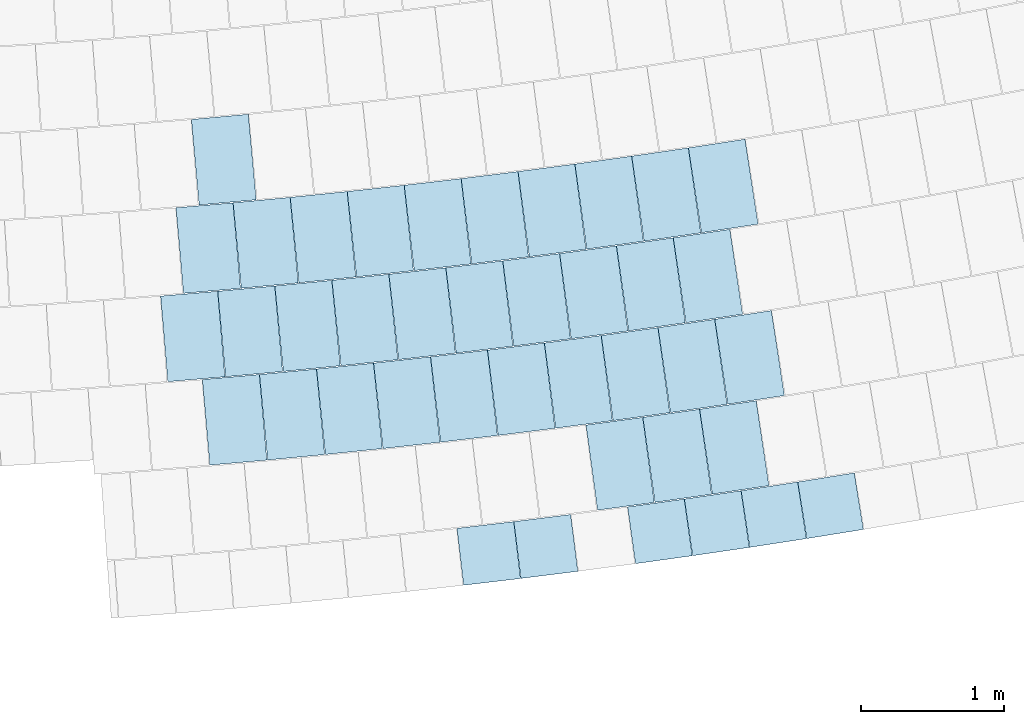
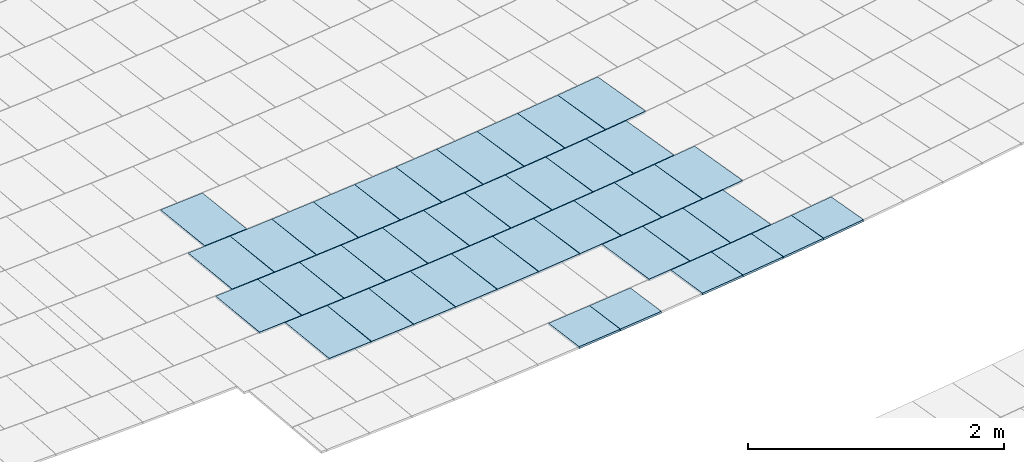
# One storey, part 57 of 438: 40 slabs.
"""IFC2X3 building model written with IfcOpenShell, lengths in millimetres."""

from ifc_helpers import new_model, entity, si_unit, converted_unit, derived_unit, direction, frame, frame_2d, origin, place, context, subcontext, project, spatial, polyline, rectangle, outline, extrude, material, layer, layer_set, layer_usage, type_object, element, save


model = new_model("IFC2X3")

# Units and contexts
model_context = context("Model", 3, precision=0.01, world=origin(), true_north=direction((6.123031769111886e-17, 1.0)))
body_context = subcontext(model_context, "Body", "Model", "MODEL_VIEW")
ifc_project = project(units=[si_unit("LENGTHUNIT", "METRE", prefix="MILLI"), si_unit("AREAUNIT", "SQUARE_METRE"), si_unit("VOLUMEUNIT", "CUBIC_METRE"), converted_unit("PLANEANGLEUNIT", "DEGREE", entity("IfcRatioMeasure", 0.017453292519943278), si_unit("PLANEANGLEUNIT", "RADIAN"), dimensions=[0, 0, 0, 0, 0, 0, 0]), si_unit("MASSUNIT", "GRAM", prefix="KILO"), derived_unit("MASSDENSITYUNIT", [(si_unit("MASSUNIT", "GRAM", prefix="KILO"), 1), (si_unit("LENGTHUNIT", "METRE"), -3)]), derived_unit("MOMENTOFINERTIAUNIT", [(si_unit("LENGTHUNIT", "METRE"), 4)]), si_unit("TIMEUNIT", "SECOND"), si_unit("FREQUENCYUNIT", "HERTZ"), si_unit("THERMODYNAMICTEMPERATUREUNIT", "DEGREE_CELSIUS"), derived_unit("THERMALTRANSMITTANCEUNIT", [(si_unit("MASSUNIT", "GRAM", prefix="KILO"), 1), (si_unit("THERMODYNAMICTEMPERATUREUNIT", "KELVIN"), -1), (si_unit("TIMEUNIT", "SECOND"), -3)]), derived_unit("THERMALCONDUCTANCEUNIT", [(si_unit("MASSUNIT", "GRAM", prefix="KILO"), 1), (si_unit("LENGTHUNIT", "METRE"), 1), (si_unit("THERMODYNAMICTEMPERATUREUNIT", "KELVIN"), -1), (si_unit("TIMEUNIT", "SECOND"), -3)]), derived_unit("VOLUMETRICFLOWRATEUNIT", [(si_unit("LENGTHUNIT", "METRE"), 3), (si_unit("TIMEUNIT", "SECOND"), -1)]), derived_unit("MASSFLOWRATEUNIT", [(si_unit("MASSUNIT", "GRAM", prefix="KILO"), 1), (si_unit("TIMEUNIT", "SECOND"), -1)]), derived_unit("ROTATIONALFREQUENCYUNIT", [(si_unit("TIMEUNIT", "SECOND"), -1)]), si_unit("ELECTRICCURRENTUNIT", "AMPERE"), si_unit("ELECTRICVOLTAGEUNIT", "VOLT"), si_unit("POWERUNIT", "WATT"), converted_unit("FORCEUNIT", "KIP", entity("IfcRatioMeasure", 2.088543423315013e-05), si_unit("FORCEUNIT", "NEWTON"), dimensions=[1, 1, -2, 0, 0, 0, 0]), si_unit("ILLUMINANCEUNIT", "LUX"), si_unit("LUMINOUSFLUXUNIT", "LUMEN"), si_unit("LUMINOUSINTENSITYUNIT", "CANDELA"), derived_unit("USERDEFINED", [(si_unit("MASSUNIT", "GRAM", prefix="KILO"), -1), (si_unit("LENGTHUNIT", "METRE"), -2), (si_unit("TIMEUNIT", "SECOND"), 3), (si_unit("LUMINOUSFLUXUNIT", "LUMEN"), 1)]), derived_unit("USERDEFINED", [(si_unit("MASSUNIT", "GRAM", prefix="KILO"), 1), (si_unit("LENGTHUNIT", "METRE"), 3), (si_unit("TIMEUNIT", "SECOND"), -3), (si_unit("ELECTRICCURRENTUNIT", "AMPERE"), -2)]), derived_unit("USERDEFINED", [(si_unit("LENGTHUNIT", "METRE"), 2), (si_unit("TIMEUNIT", "SECOND"), -2)]), derived_unit("SOUNDPOWERUNIT", [(si_unit("MASSUNIT", "GRAM", prefix="KILO"), 1), (si_unit("LENGTHUNIT", "METRE"), 2), (si_unit("TIMEUNIT", "SECOND"), -3)]), derived_unit("SOUNDPRESSUREUNIT", [(si_unit("MASSUNIT", "GRAM", prefix="KILO"), 1), (si_unit("LENGTHUNIT", "METRE"), -1), (si_unit("TIMEUNIT", "SECOND"), -2)]), derived_unit("LINEARVELOCITYUNIT", [(si_unit("LENGTHUNIT", "METRE"), 1), (si_unit("TIMEUNIT", "SECOND"), -1)]), si_unit("PRESSUREUNIT", "PASCAL"), derived_unit("USERDEFINED", [(si_unit("LENGTHUNIT", "METRE"), -2), (si_unit("MASSUNIT", "GRAM", prefix="KILO"), 1), (si_unit("TIMEUNIT", "SECOND"), -2)]), derived_unit("LINEARFORCEUNIT", [(si_unit("MASSUNIT", "GRAM", prefix="KILO"), 1), (si_unit("LENGTHUNIT", "METRE"), 1), (si_unit("TIMEUNIT", "SECOND"), -2), (si_unit("LENGTHUNIT", "METRE"), -1)]), derived_unit("PLANARFORCEUNIT", [(si_unit("MASSUNIT", "GRAM", prefix="KILO"), 1), (si_unit("LENGTHUNIT", "METRE"), 1), (si_unit("TIMEUNIT", "SECOND"), -2), (si_unit("LENGTHUNIT", "METRE"), -2)]), derived_unit("SPECIFICHEATCAPACITYUNIT", [(si_unit("LENGTHUNIT", "METRE"), 2), (si_unit("TIMEUNIT", "SECOND"), -2), (si_unit("THERMODYNAMICTEMPERATUREUNIT", "KELVIN"), -1)]), derived_unit("VAPORPERMEABILITYUNIT", [(si_unit("TIMEUNIT", "SECOND"), 1), (si_unit("LENGTHUNIT", "METRE"), -1)]), derived_unit("DYNAMICVISCOSITYUNIT", [(si_unit("MASSUNIT", "GRAM", prefix="KILO"), 1), (si_unit("LENGTHUNIT", "METRE"), -1), (si_unit("TIMEUNIT", "SECOND"), -1)]), derived_unit("THERMALEXPANSIONCOEFFICIENTUNIT", [(si_unit("THERMODYNAMICTEMPERATUREUNIT", "KELVIN"), -1)])], contexts=[model_context])

# Site, building, storey
site_placement = place(None, frame((0.0, 0.0, 0.0), z_axis=(0.0, 0.0, 1.0), x_axis=(0.8191520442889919, 0.5735764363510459, 0.0)))
site = spatial("IfcSite", under=ifc_project, at=site_placement, Name="Default", CompositionType="ELEMENT")
building_placement = place(site_placement, origin())
building = spatial("IfcBuilding", under=site, at=building_placement, CompositionType="ELEMENT")
storey_placement = place(building_placement, origin())
storey = spatial("IfcBuildingStorey", under=building, at=storey_placement, Name="PLAN", CompositionType="ELEMENT", Elevation=0.0)

# Slabs
ifc_material = material(Name="Paint-01")
ifc_layer = layer(ifc_material, 20.00000000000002)
ifc_layer_set = layer_set([ifc_layer], Name="Floor:Slab-179:1000")
ifc_layer_usage = layer_usage(ifc_layer_set, "AXIS3", "POSITIVE", 0.0)
slab_type = type_object("IfcSlabType", Name="Floor:Slab-179:1000", PredefinedType="FLOOR", material=ifc_layer_set)
slab_1_placement = place(storey_placement, origin())
element("IfcSlab", 1, at=slab_1_placement, inside=storey, type_object=slab_type, material=ifc_layer_usage, Name="Floor:Slab-179:1000", ObjectType="Floor:Slab-179:1000", PredefinedType="FLOOR", context=body_context, shape_type="SweptSolid", body=[
    extrude(outline(polyline([(-300.0, -200.0000029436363), (299.99999762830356, -200.00000294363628), (300.0, 200.0000029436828), (-299.9999976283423, 200.00000294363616), (-300.0, -200.0000029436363)])), frame((-65452.10207998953, -118417.26947926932, 520.0), z_axis=(0.0, 0.0, -1.0), x_axis=(-0.4457252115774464, -0.8951698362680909, 0.0)), (0.0, 0.0, 1.0), 20.000000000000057),
])
slab_2_placement = place(storey_placement, origin())
element("IfcSlab", 2, at=slab_2_placement, inside=storey, type_object=slab_type, material=ifc_layer_usage, Name="Floor:Slab-179:1000", ObjectType="Floor:Slab-179:1000", PredefinedType="FLOOR", context=body_context, shape_type="SweptSolid", body=[
    extrude(outline(polyline([(-300.0, -200.00000294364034), (299.9999976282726, -200.00000294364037), (300.0, 200.0000029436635), (-299.99999762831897, 200.00000294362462), (-300.0, -200.00000294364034)])), frame((-65004.22109970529, -117964.03387049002, 520.0), z_axis=(0.0, 0.0, -1.0), x_axis=(-0.4425299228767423, -0.896753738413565, 0.0)), (0.0, 0.0, 1.0), 19.99999999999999),
])
slab_3_placement = place(storey_placement, origin())
element("IfcSlab", 3, at=slab_3_placement, inside=storey, type_object=slab_type, material=ifc_layer_usage, Name="Floor:Slab-179:1000", ObjectType="Floor:Slab-179:1000", PredefinedType="FLOOR", context=body_context, shape_type="SweptSolid", body=[
    extrude(outline(polyline([(-300.0, -200.00000294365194), (299.99999762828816, -200.00000294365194), (300.0, 200.00000294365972), (-299.9999976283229, 200.00000294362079), (-300.0, -200.00000294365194)])), frame((-65539.6823063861, -119049.10589397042, 520.0), z_axis=(0.0, 0.0, -1.0), x_axis=(-0.44252992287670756, -0.8967537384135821, 0.0)), (0.0, 0.0, 1.0), 20.000000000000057),
])
slab_4_placement = place(storey_placement, origin())
element("IfcSlab", 4, at=slab_4_placement, inside=storey, type_object=slab_type, material=ifc_layer_usage, Name="Floor:Slab-179:1000", ObjectType="Floor:Slab-179:1000", PredefinedType="FLOOR", context=body_context, shape_type="SweptSolid", body=[
    extrude(outline(polyline([(-200.0, -200.00000294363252), (199.99999762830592, -200.00000294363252), (200.0, 200.00000294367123), (-199.9999976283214, 200.0000029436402), (-200.0, -200.00000294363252)])), frame((-66030.8905207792, -120044.50254360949, 520.0), z_axis=(0.0, 0.0, -1.0), x_axis=(-0.4425299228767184, -0.8967537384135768, 0.0)), (0.0, 0.0, 1.0), 20.000000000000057),
])
slab_5_placement = place(storey_placement, origin())
element("IfcSlab", 5, at=slab_5_placement, inside=storey, type_object=slab_type, material=ifc_layer_usage, Name="Floor:Slab-179:1000", ObjectType="Floor:Slab-179:1000", PredefinedType="FLOOR", context=body_context, shape_type="SweptSolid", body=[
    extrude(outline(polyline([(-300.0, -200.00000294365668), (299.9999976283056, -200.00000294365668), (300.0, 200.00000294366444), (-299.99999762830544, 200.00000294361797), (-300.0, -200.00000294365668)])), frame((-65987.54643928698, -119502.35830481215, 520.0), z_axis=(0.0, 0.0, -1.0), x_axis=(-0.44565778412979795, -0.895203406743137, 0.0)), (0.0, 0.0, 1.0), 20.000000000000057),
])
slab_6_placement = place(storey_placement, origin())
element("IfcSlab", 6, at=slab_6_placement, inside=storey, type_object=slab_type, material=ifc_layer_usage, Name="Floor:Slab-179:1000", ObjectType="Floor:Slab-179:1000", PredefinedType="FLOOR", context=body_context, shape_type="SweptSolid", body=[
    extrude(outline(polyline([(-300.0, -200.00000294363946), (299.9999976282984, -200.0000029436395), (300.0, 200.00000294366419), (-299.9999976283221, 200.00000294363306), (-300.0, -200.00000294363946)])), frame((-67753.29285824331, -115814.69515258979, 520.0), z_axis=(0.0, 0.0, -1.0), x_axis=(-0.4972118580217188, -0.8676291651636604, 0.0)), (0.0, 0.0, 1.0), 20.000000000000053),
])
slab_7_placement = place(storey_placement, origin())
element("IfcSlab", 7, at=slab_7_placement, inside=storey, type_object=slab_type, material=ifc_layer_usage, Name="Floor:Slab-179:1000", ObjectType="Floor:Slab-179:1000", PredefinedType="FLOOR", context=body_context, shape_type="SweptSolid", body=[
    extrude(outline(polyline([(-300.0, -200.0000029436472), (299.9999976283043, -200.00000294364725), (300.0, 200.00000294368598), (-299.9999976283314, 200.00000294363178), (-300.0, -200.0000029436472)])), frame((-65364.21610249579, -117784.76678214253, 520.0), z_axis=(0.0, 0.0, -1.0), x_axis=(-0.44898433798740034, -0.8935396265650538, 0.0)), (0.0, 0.0, 1.0), 19.99999999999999),
])
slab_8_placement = place(storey_placement, origin())
element("IfcSlab", 8, at=slab_8_placement, inside=storey, type_object=slab_type, material=ifc_layer_usage, Name="Floor:Slab-179:1000", ObjectType="Floor:Slab-179:1000", PredefinedType="FLOOR", context=body_context, shape_type="SweptSolid", body=[
    extrude(outline(polyline([(-300.0, -200.0000029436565), (299.99999762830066, -200.00000294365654), (300.0, 200.00000294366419), (-299.999997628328, 200.0000029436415), (-300.0, -200.0000029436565)])), frame((-66080.28164386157, -117418.4689580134, 520.0), z_axis=(0.0, 0.0, -1.0), x_axis=(-0.46182280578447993, -0.8869722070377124, 0.0)), (0.0, 0.0, 1.0), 20.000000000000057),
])
slab_9_placement = place(storey_placement, origin())
element("IfcSlab", 9, at=slab_9_placement, inside=storey, type_object=slab_type, material=ifc_layer_usage, Name="Floor:Slab-179:1000", ObjectType="Floor:Slab-179:1000", PredefinedType="FLOOR", context=body_context, shape_type="SweptSolid", body=[
    extrude(outline(polyline([(-300.0, -200.0000029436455), (299.99999762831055, -200.0000029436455), (300.0, 200.00000294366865), (-299.9999976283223, 200.00000294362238), (-300.0, -200.0000029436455)])), frame((-65722.90916669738, -117602.90865971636, 520.0), z_axis=(0.0, 0.0, -1.0), x_axis=(-0.4554154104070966, -0.8902790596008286, 0.0)), (0.0, 0.0, 1.0), 19.99999999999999),
])
slab_10_placement = place(storey_placement, origin())
element("IfcSlab", 10, at=slab_10_placement, inside=storey, type_object=slab_type, material=ifc_layer_usage, Name="Floor:Slab-179:1000", ObjectType="Floor:Slab-179:1000", PredefinedType="FLOOR", context=body_context, shape_type="SweptSolid", body=[
    extrude(outline(polyline([(-300.0, -200.00000294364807), (299.9999976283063, -200.00000294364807), (300.0, 200.00000294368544), (-299.99999762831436, 200.00000294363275), (-300.0, -200.00000294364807)])), frame((-66436.31495419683, -117231.45726605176, 520.0), z_axis=(0.0, 0.0, -1.0), x_axis=(-0.46820619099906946, -0.883619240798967, 0.0)), (0.0, 0.0, 1.0), 19.99999999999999),
])
slab_11_placement = place(storey_placement, origin())
element("IfcSlab", 11, at=slab_11_placement, inside=storey, type_object=slab_type, material=ifc_layer_usage, Name="Floor:Slab-179:1000", ObjectType="Floor:Slab-179:1000", PredefinedType="FLOOR", context=body_context, shape_type="SweptSolid", body=[
    extrude(outline(polyline([(-300.0, -200.0000029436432), (299.99999762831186, -200.0000029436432), (300.0, 200.00000294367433), (-299.99999762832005, 200.00000294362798), (-300.0, -200.0000029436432)])), frame((-66790.99058753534, -117041.88330656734, 520.0), z_axis=(0.0, 0.0, -1.0), x_axis=(-0.47456523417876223, -0.8802203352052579, 0.0)), (0.0, 0.0, 1.0), 20.000000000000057),
])
slab_12_placement = place(storey_placement, origin())
element("IfcSlab", 12, at=slab_12_placement, inside=storey, type_object=slab_type, material=ifc_layer_usage, Name="Floor:Slab-179:1000", ObjectType="Floor:Slab-179:1000", PredefinedType="FLOOR", context=body_context, shape_type="SweptSolid", body=[
    extrude(outline(polyline([(-300.0, -200.00000294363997), (299.99999762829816, -200.00000294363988), (300.0, 200.00000294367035), (-299.99999762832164, 200.0000029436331), (-300.0, -200.00000294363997)])), frame((-67144.2901042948, -116849.75693550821, 520.0), z_axis=(0.0, 0.0, -1.0), x_axis=(-0.480899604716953, -0.8767756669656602, 0.0)), (0.0, 0.0, 1.0), 19.99999999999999),
])
slab_13_placement = place(storey_placement, origin())
element("IfcSlab", 13, at=slab_13_placement, inside=storey, type_object=slab_type, material=ifc_layer_usage, Name="Floor:Slab-179:1000", ObjectType="Floor:Slab-179:1000", PredefinedType="FLOOR", context=body_context, shape_type="SweptSolid", body=[
    extrude(outline(polyline([(-300.0, -200.00000294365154), (299.9999976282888, -200.00000294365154), (300.0, 200.00000294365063), (-299.99999762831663, 200.00000294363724), (-300.0, -200.00000294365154)])), frame((-67496.19513643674, -116655.08814152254, 520.0), z_axis=(0.0, 0.0, -1.0), x_axis=(-0.48720897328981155, -0.8732854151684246, 0.0)), (0.0, 0.0, 1.0), 20.000000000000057),
])
slab_14_placement = place(storey_placement, origin())
element("IfcSlab", 14, at=slab_14_placement, inside=storey, type_object=slab_type, material=ifc_layer_usage, Name="Floor:Slab-179:1000", ObjectType="Floor:Slab-179:1000", PredefinedType="FLOOR", context=body_context, shape_type="SweptSolid", body=[
    extrude(outline(polyline([(-300.0, -200.0000029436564), (299.99999762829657, -200.00000294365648), (300.0, 200.00000294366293), (-299.9999976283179, 200.00000294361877), (-300.0, -200.0000029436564)])), frame((-67846.68738842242, -116457.88704543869, 520.0), z_axis=(0.0, 0.0, -1.0), x_axis=(-0.4934930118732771, -0.869749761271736, 0.0)), (0.0, 0.0, 1.0), 20.000000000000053),
])
slab_15_placement = place(storey_placement, origin())
element("IfcSlab", 15, at=slab_15_placement, inside=storey, type_object=slab_type, material=ifc_layer_usage, Name="Floor:Slab-179:1000", ObjectType="Floor:Slab-179:1000", PredefinedType="FLOOR", context=body_context, shape_type="SweptSolid", body=[
    extrude(rectangle(XDim=599.9999726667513, YDim=399.99998940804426, at=frame_2d((2.1600499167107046e-12, 3.765876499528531e-12), x_axis=(1.0, 0.0))), frame((-68195.79450912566, -116258.07112539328, 520.0), z_axis=(0.0, 0.0, -1.0), x_axis=(-0.5000000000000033, -0.8660254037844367, 0.0)), (0.0, 0.0, 1.0), 19.99999999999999),
])
slab_16_placement = place(storey_placement, origin())
element("IfcSlab", 16, at=slab_16_placement, inside=storey, type_object=slab_type, material=ifc_layer_usage, Name="Floor:Slab-179:1000", ObjectType="Floor:Slab-179:1000", PredefinedType="FLOOR", context=body_context, shape_type="SweptSolid", body=[
    extrude(outline(polyline([(-300.0, -200.00000294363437), (299.9999976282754, -200.0000029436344), (300.0, 200.000002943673), (-299.99999762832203, 200.00000294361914), (-300.0, -200.00000294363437)])), frame((-65811.4416906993, -118236.74410404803, 520.0), z_axis=(0.0, 0.0, -1.0), x_axis=(-0.4520987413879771, -0.8919678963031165, 0.0)), (0.0, 0.0, 1.0), 19.999999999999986),
])
slab_17_placement = place(storey_placement, origin())
element("IfcSlab", 17, at=slab_17_placement, inside=storey, type_object=slab_type, material=ifc_layer_usage, Name="Floor:Slab-179:1000", ObjectType="Floor:Slab-179:1000", PredefinedType="FLOOR", context=body_context, shape_type="SweptSolid", body=[
    extrude(outline(polyline([(-300.0, -200.00000294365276), (299.9999976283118, -200.00000294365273), (300.0, 200.0000029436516), (-299.9999976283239, 200.0000029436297), (-300.0, -200.00000294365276)])), frame((-66526.2124417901, -117868.02739168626, 520.0), z_axis=(0.0, 0.0, -1.0), x_axis=(-0.46477647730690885, -0.8854280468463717, 0.0)), (0.0, 0.0, 1.0), 20.000000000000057),
])
slab_18_placement = place(storey_placement, origin())
element("IfcSlab", 18, at=slab_18_placement, inside=storey, type_object=slab_type, material=ifc_layer_usage, Name="Floor:Slab-179:1000", ObjectType="Floor:Slab-179:1000", PredefinedType="FLOOR", context=body_context, shape_type="SweptSolid", body=[
    extrude(outline(polyline([(-300.0, -200.00000294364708), (299.99999762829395, -200.00000294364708), (300.0, 200.00000294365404), (-299.99999762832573, 200.00000294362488), (-300.0, -200.00000294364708)])), frame((-67235.65079998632, -117489.15213977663, 520.0), z_axis=(0.0, 0.0, -1.0), x_axis=(-0.4773596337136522, -0.8787080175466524, 0.0)), (0.0, 0.0, 1.0), 20.000000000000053),
])
slab_19_placement = place(storey_placement, origin())
element("IfcSlab", 19, at=slab_19_placement, inside=storey, type_object=slab_type, material=ifc_layer_usage, Name="Floor:Slab-179:1000", ObjectType="Floor:Slab-179:1000", PredefinedType="FLOOR", context=body_context, shape_type="SweptSolid", body=[
    extrude(outline(polyline([(-300.0, -200.00000294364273), (299.9999976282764, -200.00000294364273), (300.0, 200.00000294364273), (-299.9999976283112, 200.0000029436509), (-300.0, -200.00000294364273)])), frame((-66169.48454969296, -118053.66030343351, 520.0), z_axis=(0.0, 0.0, -1.0), x_axis=(-0.45844927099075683, -0.8887205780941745, 0.0)), (0.0, 0.0, 1.0), 20.000000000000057),
])
slab_20_placement = place(storey_placement, origin())
element("IfcSlab", 20, at=slab_20_placement, inside=storey, type_object=slab_type, material=ifc_layer_usage, Name="Floor:Slab-179:1000", ObjectType="Floor:Slab-179:1000", PredefinedType="FLOOR", context=body_context, shape_type="SweptSolid", body=[
    extrude(outline(polyline([(-300.0, -200.0000029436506), (299.9999976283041, -200.00000294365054), (300.0, 200.0000029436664), (-299.9999976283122, 200.00000294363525), (-300.0, -200.0000029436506)])), frame((-66881.60721870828, -117679.85481275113, 520.0), z_axis=(0.0, 0.0, -1.0), x_axis=(-0.4710800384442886, -0.8820904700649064, 0.0)), (0.0, 0.0, 1.0), 20.000000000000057),
])
slab_21_placement = place(storey_placement, origin())
element("IfcSlab", 21, at=slab_21_placement, inside=storey, type_object=slab_type, material=ifc_layer_usage, Name="Floor:Slab-179:1000", ObjectType="Floor:Slab-179:1000", PredefinedType="FLOOR", context=body_context, shape_type="SweptSolid", body=[
    extrude(outline(polyline([(-300.0, -200.0000029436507), (299.9999976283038, -200.0000029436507), (300.0, 200.0000029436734), (-299.99999762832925, 200.0000029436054), (-300.0, -200.0000029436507)])), frame((-67939.61239839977, -117100.19544739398, 520.0), z_axis=(0.0, 0.0, -1.0), x_axis=(-0.4898456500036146, -0.8718091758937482, 0.0)), (0.0, 0.0, 1.0), 20.000000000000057),
])
slab_22_placement = place(storey_placement, origin())
element("IfcSlab", 22, at=slab_22_placement, inside=storey, type_object=slab_type, material=ifc_layer_usage, Name="Floor:Slab-179:1000", ObjectType="Floor:Slab-179:1000", PredefinedType="FLOOR", context=body_context, shape_type="SweptSolid", body=[
    extrude(outline(polyline([(-300.0, -200.0000029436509), (299.99999762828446, -200.0000029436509), (300.0, 200.00000294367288), (-299.99999762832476, 200.0000029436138), (-300.0, -200.0000029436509)])), frame((-67588.32517390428, -117295.92907462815, 520.0), z_axis=(0.0, 0.0, -1.0), x_axis=(-0.4836149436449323, -0.8752808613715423, 0.0)), (0.0, 0.0, 1.0), 20.000000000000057),
])
slab_23_placement = place(storey_placement, origin())
element("IfcSlab", 23, at=slab_23_placement, inside=storey, type_object=slab_type, material=ifc_layer_usage, Name="Floor:Slab-179:1000", ObjectType="Floor:Slab-179:1000", PredefinedType="FLOOR", context=body_context, shape_type="SweptSolid", body=[
    extrude(outline(polyline([(-300.0, -200.0000029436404), (299.9999976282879, -200.00000294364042), (300.0, 200.00000294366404), (-299.9999976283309, 200.00000294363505), (-300.0, -200.0000029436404)])), frame((-68289.49460197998, -116901.96121588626, 520.0), z_axis=(0.0, 0.0, -1.0), x_axis=(-0.4960514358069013, -0.8682931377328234, 0.0)), (0.0, 0.0, 1.0), 20.000000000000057),
])
slab_24_placement = place(storey_placement, origin())
element("IfcSlab", 24, at=slab_24_placement, inside=storey, type_object=slab_type, material=ifc_layer_usage, Name="Floor:Slab-179:1000", ObjectType="Floor:Slab-179:1000", PredefinedType="FLOOR", context=body_context, shape_type="SweptSolid", body=[
    extrude(outline(polyline([(-300.0, -200.00000294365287), (299.99999762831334, -200.00000294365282), (300.0, 200.00000294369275), (-299.9999976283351, 200.00000294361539), (-300.0, -200.00000294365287)])), frame((-68637.9539846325, -116701.23646513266, 520.0), z_axis=(0.0, 0.0, -1.0), x_axis=(-0.5022319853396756, -0.8647329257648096, 0.0)), (0.0, 0.0, 1.0), 20.000000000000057),
])
slab_25_placement = place(storey_placement, origin())
element("IfcSlab", 25, at=slab_25_placement, inside=storey, type_object=slab_type, material=ifc_layer_usage, Name="Floor:Slab-179:1000", ObjectType="Floor:Slab-179:1000", PredefinedType="FLOOR", context=body_context, shape_type="SweptSolid", body=[
    extrude(outline(polyline([(-300.0, -200.00000294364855), (299.99999762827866, -200.00000294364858), (300.0, 200.00000294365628), (-299.9999976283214, 200.00000294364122), (-300.0, -200.00000294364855)])), frame((-66258.34381853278, -118688.13255442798, 520.0), z_axis=(0.0, 0.0, -1.0), x_axis=(-0.45514133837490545, -0.8904192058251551, 0.0)), (0.0, 0.0, 1.0), 20.000000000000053),
])
slab_26_placement = place(storey_placement, origin())
element("IfcSlab", 26, at=slab_26_placement, inside=storey, type_object=slab_type, material=ifc_layer_usage, Name="Floor:Slab-179:1000", ObjectType="Floor:Slab-179:1000", PredefinedType="FLOOR", context=body_context, shape_type="SweptSolid", body=[
    extrude(outline(polyline([(-300.0, -200.000002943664), (299.99999762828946, -200.00000294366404), (300.0, 200.00000294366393), (-299.99999762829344, 200.00000294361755), (-300.0, -200.000002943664)])), frame((-65899.6498682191, -118869.88704024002, 520.0), z_axis=(0.0, 0.0, -1.0), x_axis=(-0.44884680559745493, -0.8936087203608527, 0.0)), (0.0, 0.0, 1.0), 20.000000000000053),
])
slab_27_placement = place(storey_placement, origin())
element("IfcSlab", 27, at=slab_27_placement, inside=storey, type_object=slab_type, material=ifc_layer_usage, Name="Floor:Slab-179:1000", ObjectType="Floor:Slab-179:1000", PredefinedType="FLOOR", context=body_context, shape_type="SweptSolid", body=[
    extrude(outline(polyline([(-300.0, -200.0000029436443), (299.9999976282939, -200.00000294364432), (300.0, 200.00000294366), (-299.9999976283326, 200.00000294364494), (-300.0, -200.0000029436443)])), frame((-66615.74629646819, -118503.85148684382, 520.0), z_axis=(0.0, 0.0, -1.0), x_axis=(-0.461413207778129, -0.8871853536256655, 0.0)), (0.0, 0.0, 1.0), 19.99999999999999),
])
slab_28_placement = place(storey_placement, origin())
element("IfcSlab", 28, at=slab_28_placement, inside=storey, type_object=slab_type, material=ifc_layer_usage, Name="Floor:Slab-179:1000", ObjectType="Floor:Slab-179:1000", PredefinedType="FLOOR", context=body_context, shape_type="SweptSolid", body=[
    extrude(outline(polyline([(-300.0, -200.00000294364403), (299.99999762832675, -200.00000294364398), (300.0, 200.0000029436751), (-299.999997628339, 200.000002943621), (-300.0, -200.00000294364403)])), frame((-66971.83950547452, -118317.05301360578, 520.0), z_axis=(0.0, 0.0, -1.0), x_axis=(-0.46766210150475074, -0.8839073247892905, 0.0)), (0.0, 0.0, 1.0), 20.000000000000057),
])
slab_29_placement = place(storey_placement, origin())
element("IfcSlab", 29, at=slab_29_placement, inside=storey, type_object=slab_type, material=ifc_layer_usage, Name="Floor:Slab-179:1000", ObjectType="Floor:Slab-179:1000", PredefinedType="FLOOR", context=body_context, shape_type="SweptSolid", body=[
    extrude(outline(polyline([(-300.0, -200.0000029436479), (299.9999976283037, -200.00000294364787), (300.0, 200.0000029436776), (-299.99999762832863, 200.00000294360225), (-300.0, -200.0000029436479)])), frame((-67680.02725734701, -117935.94118093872, 520.0), z_axis=(0.0, 0.0, -1.0), x_axis=(-0.480089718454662, -0.877219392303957, 0.0)), (0.0, 0.0, 1.0), 20.000000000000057),
])
slab_30_placement = place(storey_placement, origin())
element("IfcSlab", 30, at=slab_30_placement, inside=storey, type_object=slab_type, material=ifc_layer_usage, Name="Floor:Slab-179:1000", ObjectType="Floor:Slab-179:1000", PredefinedType="FLOOR", context=body_context, shape_type="SweptSolid", body=[
    extrude(rectangle(XDim=599.9991584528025, YDim=399.9994465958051, at=frame_2d((-2.1600499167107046e-12, -3.765876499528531e-12), x_axis=(1.0, 0.0))), frame((-68732.31548880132, -117345.08899296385, 520.0), z_axis=(0.0, 0.0, -1.0), x_axis=(-0.5000000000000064, -0.866025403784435, 0.0)), (0.0, 0.0, 1.0), 19.999999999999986),
])
slab_31_placement = place(storey_placement, origin())
element("IfcSlab", 31, at=slab_31_placement, inside=storey, type_object=slab_type, material=ifc_layer_usage, Name="Floor:Slab-179:1000", ObjectType="Floor:Slab-179:1000", PredefinedType="FLOOR", context=body_context, shape_type="SweptSolid", body=[
    extrude(outline(polyline([(-300.0, -200.00000294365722), (299.999997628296, -200.00000294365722), (300.0, 200.0000029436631), (-299.9999976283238, 200.00000294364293), (-300.0, -200.00000294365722)])), frame((-68032.08653660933, -117741.64679864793, 520.0), z_axis=(0.0, 0.0, -1.0), x_axis=(-0.4862678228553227, -0.8738098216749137, 0.0)), (0.0, 0.0, 1.0), 20.000000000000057),
])
slab_32_placement = place(storey_placement, origin())
element("IfcSlab", 32, at=slab_32_placement, inside=storey, type_object=slab_type, material=ifc_layer_usage, Name="Floor:Slab-179:1000", ObjectType="Floor:Slab-179:1000", PredefinedType="FLOOR", context=body_context, shape_type="SweptSolid", body=[
    extrude(outline(polyline([(-300.0, -200.00000294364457), (299.99999762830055, -200.00000294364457), (300.0, 200.00000294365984), (-299.99999762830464, 200.00000294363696), (-300.0, -200.00000294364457)])), frame((-67326.60571419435, -118127.7464361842, 520.0), z_axis=(0.0, 0.0, -1.0), x_axis=(-0.47388770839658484, -0.8805852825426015, 0.0)), (0.0, 0.0, 1.0), 19.99999999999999),
])
slab_33_placement = place(storey_placement, origin())
element("IfcSlab", 33, at=slab_33_placement, inside=storey, type_object=slab_type, material=ifc_layer_usage, Name="Floor:Slab-179:1000", ObjectType="Floor:Slab-179:1000", PredefinedType="FLOOR", context=body_context, shape_type="SweptSolid", body=[
    extrude(outline(polyline([(-300.0, -200.00000294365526), (299.99999762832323, -200.00000294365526), (300.0, 200.00000294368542), (-299.99999762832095, 200.00000294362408), (-300.0, -200.00000294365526)])), frame((-68382.76602148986, -117544.87296403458, 520.0), z_axis=(0.0, 0.0, -1.0), x_axis=(-0.49242171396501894, -0.8703567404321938, 0.0)), (0.0, 0.0, 1.0), 20.000000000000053),
])
slab_34_placement = place(storey_placement, origin())
element("IfcSlab", 34, at=slab_34_placement, inside=storey, type_object=slab_type, material=ifc_layer_usage, Name="Floor:Slab-179:1000", ObjectType="Floor:Slab-179:1000", PredefinedType="FLOOR", context=body_context, shape_type="SweptSolid", body=[
    extrude(outline(polyline([(-300.0, -200.00000294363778), (299.9999976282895, -200.00000294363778), (300.0, 200.00000294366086), (-299.9999976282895, 200.00000294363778), (-300.0, -200.00000294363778)])), frame((-66704.9308043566, -119138.95189508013, 520.0), z_axis=(0.0, 0.0, -1.0), x_axis=(-0.4581145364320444, -0.8888931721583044, 0.0)), (0.0, 0.0, 1.0), 20.000000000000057),
])
slab_35_placement = place(storey_placement, origin())
element("IfcSlab", 35, at=slab_35_placement, inside=storey, type_object=slab_type, material=ifc_layer_usage, Name="Floor:Slab-179:1000", ObjectType="Floor:Slab-179:1000", PredefinedType="FLOOR", context=body_context, shape_type="SweptSolid", body=[
    extrude(outline(polyline([(-300.0, -200.00000294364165), (299.9999976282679, -200.0000029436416), (300.0, 200.00000294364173), (-299.9999976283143, 200.00000294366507), (-300.0, -200.00000294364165)])), frame((-66346.87294965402, -119321.90729819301, 520.0), z_axis=(0.0, 0.0, -1.0), x_axis=(-0.45189717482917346, -0.8920700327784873, 0.0)), (0.0, 0.0, 1.0), 20.000000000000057),
])
slab_36_placement = place(storey_placement, origin())
element("IfcSlab", 36, at=slab_36_placement, inside=storey, type_object=slab_type, material=ifc_layer_usage, Name="Floor:Slab-179:1000", ObjectType="Floor:Slab-179:1000", PredefinedType="FLOOR", context=body_context, shape_type="SweptSolid", body=[
    extrude(outline(polyline([(-200.0, -200.0000029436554), (199.99999762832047, -200.0000029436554), (200.0, 200.0000029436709), (-199.9999976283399, 200.0000029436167), (-200.0, -200.0000029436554)])), frame((-66390.21327279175, -119865.63778757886, 520.0), z_axis=(0.0, 0.0, -1.0), x_axis=(-0.44871501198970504, -0.8936749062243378, 0.0)), (0.0, 0.0, 1.0), 20.000000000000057),
])
slab_37_placement = place(storey_placement, origin())
element("IfcSlab", 37, at=slab_37_placement, inside=storey, type_object=slab_type, material=ifc_layer_usage, Name="Floor:Slab-179:1000", ObjectType="Floor:Slab-179:1000", PredefinedType="FLOOR", context=body_context, shape_type="SweptSolid", body=[
    extrude(outline(polyline([(-200.0, -200.00000294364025), (199.99999762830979, -200.00000294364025), (200.0, 200.00000294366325), (-199.99999762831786, 200.00000294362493), (-200.0, -200.00000294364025)])), frame((-67460.64712682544, -119314.20856064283, 520.0), z_axis=(0.0, 0.0, -1.0), x_axis=(-0.4671405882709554, -0.8841830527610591, 0.0)), (0.0, 0.0, 1.0), 20.000000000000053),
])
slab_38_placement = place(storey_placement, origin())
element("IfcSlab", 38, at=slab_38_placement, inside=storey, type_object=slab_type, material=ifc_layer_usage, Name="Floor:Slab-179:1000", ObjectType="Floor:Slab-179:1000", PredefinedType="FLOOR", context=body_context, shape_type="SweptSolid", body=[
    extrude(outline(polyline([(-200.0, -200.00000294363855), (199.99999762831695, -200.00000294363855), (200.0, 200.00000294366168), (-199.9999976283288, 200.00000294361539), (-200.0, -200.00000294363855)])), frame((-66748.29167623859, -119684.294747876, 520.0), z_axis=(0.0, 0.0, -1.0), x_axis=(-0.45487868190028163, -0.890553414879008, 0.0)), (0.0, 0.0, 1.0), 20.000000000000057),
])
slab_39_placement = place(storey_placement, origin())
element("IfcSlab", 39, at=slab_39_placement, inside=storey, type_object=slab_type, material=ifc_layer_usage, Name="Floor:Slab-179:1000", ObjectType="Floor:Slab-179:1000", PredefinedType="FLOOR", context=body_context, shape_type="SweptSolid", body=[
    extrude(outline(polyline([(-200.0, -200.00000294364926), (199.99999762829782, -200.00000294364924), (200.0, 200.00000294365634), (-199.9999976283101, 200.00000294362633), (-200.0, -200.00000294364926)])), frame((-67814.89017000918, -119125.48307900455, 520.0), z_axis=(0.0, 0.0, -1.0), x_axis=(-0.473238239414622, -0.8809344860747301, 0.0)), (0.0, 0.0, 1.0), 20.000000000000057),
])
slab_40_placement = place(storey_placement, origin())
element("IfcSlab", 40, at=slab_40_placement, inside=storey, type_object=slab_type, material=ifc_layer_usage, Name="Floor:Slab-179:1000", ObjectType="Floor:Slab-179:1000", PredefinedType="FLOOR", context=body_context, shape_type="SweptSolid", body=[
    extrude(outline(polyline([(-199.99999762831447, -200.00000294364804), (200.0, -200.00000294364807), (199.99999762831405, 200.0000029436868), (-200.0, 200.00000294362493), (-199.99999762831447, -200.00000294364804)])), frame((-65670.34057230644, -120220.88047794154, 520.0), z_axis=(0.0, 0.0, -1.0), x_axis=(-0.4363237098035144, -0.8997897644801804, 0.0)), (0.0, 0.0, 1.0), 20.000000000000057),
])

save(model, "model.ifc")
